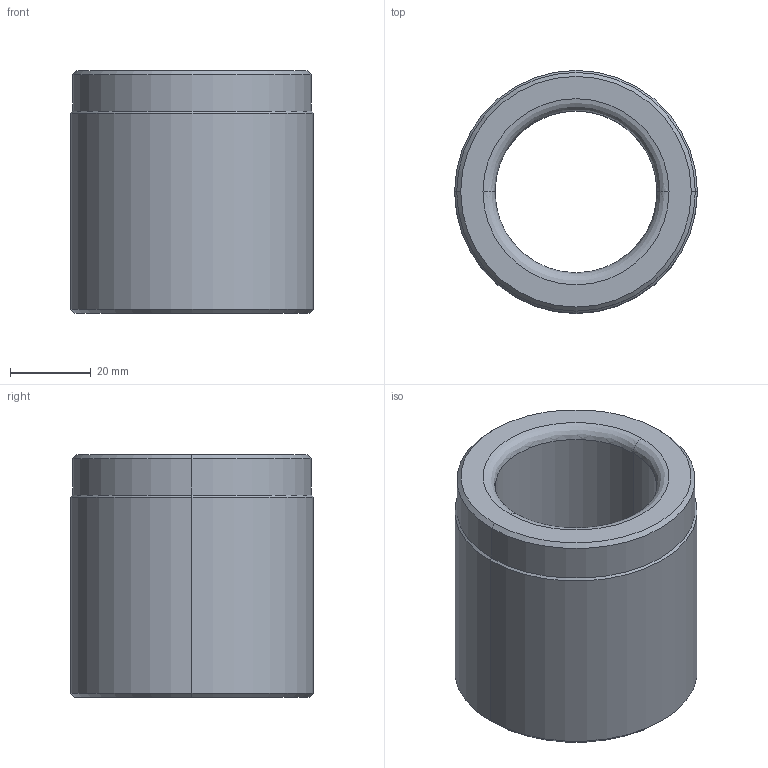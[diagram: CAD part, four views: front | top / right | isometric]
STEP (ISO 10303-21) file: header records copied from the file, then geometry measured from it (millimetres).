
FILE_DESCRIPTION((''),'2;1');
FILE_NAME('','2010-08-30T17:13:04+09:00',('misumi'),(''),'M/STEP i/f 1R2-14','CADmeister v5.1','');
FILE_SCHEMA(('AUTOMOTIVE_DESIGN'));
Length unit declared in the file: millimetre
Products named in the file (1): GBF40
Bounding box: 60 x 60 x 60 mm (x, y, z)
Volume: 92385.7 mm3; surface area: 21392.8 mm2
Topology: 1 solids, 1 shells, 20 faces, 40 edges, 22 vertices
Faces by surface type: cone 8, cylinder 6, revolution 4, plane 2
Entity records: 829 total; most frequent: DIRECTION 112, CARTESIAN_POINT 87, ORIENTED_EDGE 80, COLOUR_RGB 51, AXIS2_PLACEMENT_3D 47, CURVE_STYLE 46, PRESENTATION_STYLE_ASSIGNMENT 45, OVER_RIDING_STYLED_ITEM 44
